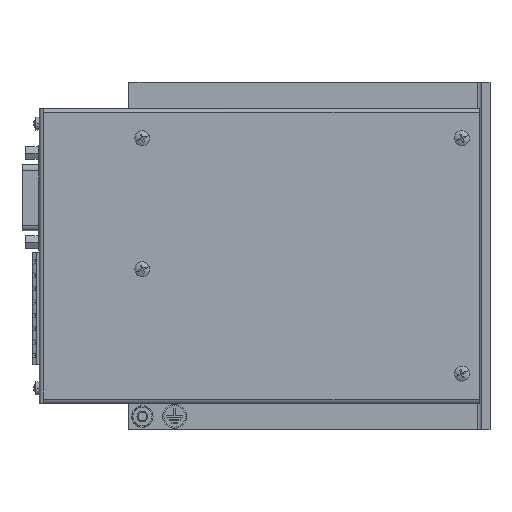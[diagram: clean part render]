
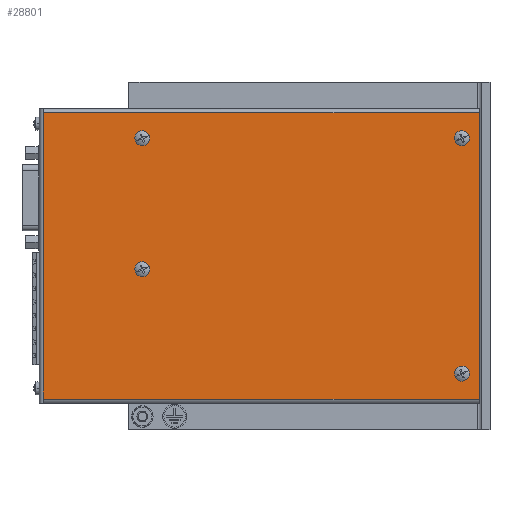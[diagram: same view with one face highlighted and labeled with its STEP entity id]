
A CAD part, top view. The second image highlights one B-rep face of the part: STEP entity #28801.
In plain terms, the highlighted planar face has unit normal (0, 0, 1).
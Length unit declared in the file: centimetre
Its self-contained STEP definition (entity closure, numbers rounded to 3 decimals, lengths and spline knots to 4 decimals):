
#2181=PLANE('',#30681);
#4614=VECTOR('',#35609,1.);
#4617=VECTOR('',#35615,1.);
#4619=VECTOR('',#35619,1.);
#4624=VECTOR('',#35629,1.);
#7609=LINE('',#43265,#4614);
#7612=LINE('',#43274,#4617);
#7614=LINE('',#43279,#4619);
#7619=LINE('',#43294,#4624);
#9979=VERTEX_POINT('',#42149);
#9981=VERTEX_POINT('',#42154);
#9983=VERTEX_POINT('',#42159);
#9985=VERTEX_POINT('',#42164);
#10355=VERTEX_POINT('',#43258);
#10357=VERTEX_POINT('',#43266);
#10361=VERTEX_POINT('',#43275);
#10362=VERTEX_POINT('',#43280);
#10368=VERTEX_POINT('',#43293);
#10369=VERTEX_POINT('',#43295);
#11492=CIRCLE('',#30451,0.17);
#11494=CIRCLE('',#30454,0.17);
#11496=CIRCLE('',#30457,0.17);
#11498=CIRCLE('',#30460,0.17);
#14003=EDGE_CURVE('',#9979,#9979,#11492,.T.);
#14005=EDGE_CURVE('',#9981,#9981,#11494,.T.);
#14007=EDGE_CURVE('',#9983,#9983,#11496,.T.);
#14009=EDGE_CURVE('',#9985,#9985,#11498,.T.);
#14554=EDGE_CURVE('',#10355,#10357,#7609,.T.);
#14561=EDGE_CURVE('',#10361,#10355,#7609,.T.);
#14562=EDGE_CURVE('',#10357,#10362,#7614,.T.);
#14569=EDGE_CURVE('',#10368,#10361,#7612,.T.);
#14570=EDGE_CURVE('',#10369,#10368,#7619,.T.);
#14571=EDGE_CURVE('',#10362,#10369,#7619,.T.);
#21314=ORIENTED_EDGE('',*,*,#14003,.T.);
#21315=ORIENTED_EDGE('',*,*,#14005,.T.);
#21316=ORIENTED_EDGE('',*,*,#14007,.T.);
#21317=ORIENTED_EDGE('',*,*,#14009,.T.);
#21318=ORIENTED_EDGE('',*,*,#14561,.F.);
#21319=ORIENTED_EDGE('',*,*,#14569,.F.);
#21320=ORIENTED_EDGE('',*,*,#14570,.F.);
#21321=ORIENTED_EDGE('',*,*,#14571,.F.);
#21322=ORIENTED_EDGE('',*,*,#14562,.F.);
#21323=ORIENTED_EDGE('',*,*,#14554,.F.);
#25066=EDGE_LOOP('',(#21314));
#25067=EDGE_LOOP('',(#21315));
#25068=EDGE_LOOP('',(#21316));
#25069=EDGE_LOOP('',(#21317));
#25070=EDGE_LOOP('',(#21318,#21319,#21320,#21321,#21322,#21323));
#27057=FACE_BOUND('',#25066,.T.);
#27058=FACE_BOUND('',#25067,.T.);
#27059=FACE_BOUND('',#25068,.T.);
#27060=FACE_BOUND('',#25069,.T.);
#27061=FACE_BOUND('',#25070,.T.);
#28801=ADVANCED_FACE('',(#27057,#27058,#27059,#27060,#27061),#2181,.T.);
#30451=AXIS2_PLACEMENT_3D('',#42148,#34818,#34819);
#30454=AXIS2_PLACEMENT_3D('',#42153,#34824,#34825);
#30457=AXIS2_PLACEMENT_3D('',#42158,#34830,#34831);
#30460=AXIS2_PLACEMENT_3D('',#42163,#34836,#34837);
#30681=AXIS2_PLACEMENT_3D('',#43292,#35628,$);
#34818=DIRECTION('',(0.,0.,-1.));
#34819=DIRECTION('',(0.,0.17,0.));
#34824=DIRECTION('',(0.,0.,-1.));
#34825=DIRECTION('',(0.,0.17,0.));
#34830=DIRECTION('',(0.,0.,-1.));
#34831=DIRECTION('',(0.,0.17,0.));
#34836=DIRECTION('',(0.,0.,-1.));
#34837=DIRECTION('',(0.,0.17,0.));
#35609=DIRECTION('',(1.,0.,0.));
#35615=DIRECTION('',(0.,1.,0.));
#35619=DIRECTION('',(0.,-1.,0.));
#35628=DIRECTION('',(0.,0.,1.));
#35629=DIRECTION('',(-1.,0.,0.));
#42148=CARTESIAN_POINT('',(3.85,5.,0.1));
#42149=CARTESIAN_POINT('',(3.85,5.17,0.1));
#42153=CARTESIAN_POINT('',(3.85,9.9,0.1));
#42154=CARTESIAN_POINT('',(3.85,10.07,0.1));
#42158=CARTESIAN_POINT('',(15.8,1.1,0.1));
#42159=CARTESIAN_POINT('',(15.8,1.27,0.1));
#42163=CARTESIAN_POINT('',(15.8,9.9,0.1));
#42164=CARTESIAN_POINT('',(15.8,10.07,0.1));
#43258=CARTESIAN_POINT('',(0.15,10.85,0.1));
#43265=CARTESIAN_POINT('',(8.2625,10.85,0.1));
#43266=CARTESIAN_POINT('',(16.45,10.85,0.1));
#43274=CARTESIAN_POINT('',(0.15,5.5,0.1));
#43275=CARTESIAN_POINT('',(0.15,10.85,0.1));
#43279=CARTESIAN_POINT('',(16.45,11.,0.1));
#43280=CARTESIAN_POINT('',(16.45,0.15,0.1));
#43292=CARTESIAN_POINT('',(8.225,5.5,0.1));
#43293=CARTESIAN_POINT('',(0.15,0.15,0.1));
#43294=CARTESIAN_POINT('',(8.2625,0.15,0.1));
#43295=CARTESIAN_POINT('',(0.15,0.15,0.1));
